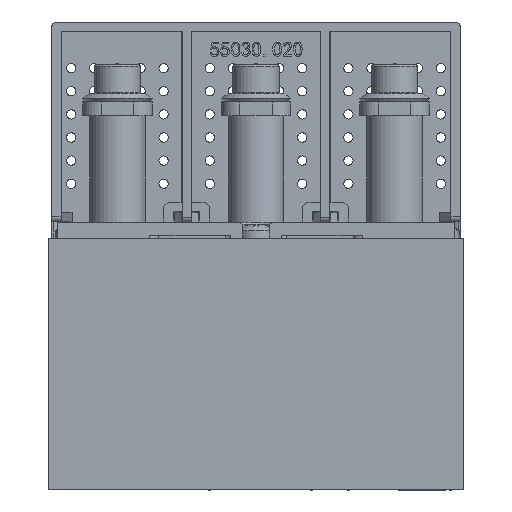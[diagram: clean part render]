
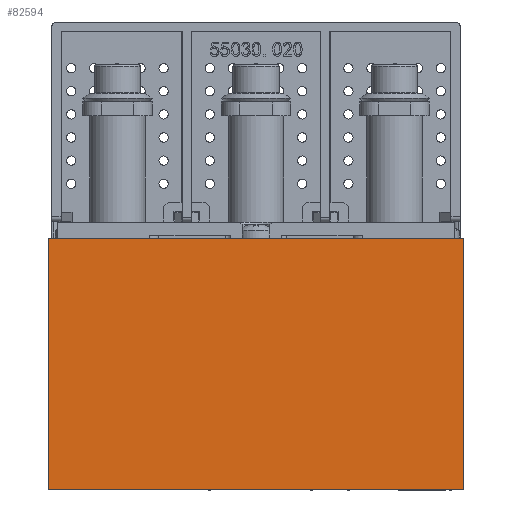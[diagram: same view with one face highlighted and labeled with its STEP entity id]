
A CAD part, left-side view. The second image highlights one B-rep face of the part: STEP entity #82594.
In plain terms, the highlighted planar face has unit normal (-1, 0, 0).
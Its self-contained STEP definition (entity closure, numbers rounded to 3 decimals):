
#277 = VERTEX_POINT ( 'NONE', #60913 ) ;
#1055 = ORIENTED_EDGE ( 'NONE', *, *, #59496, .T. ) ;
#5443 = VECTOR ( 'NONE', #9831, 1000. ) ;
#5937 = DIRECTION ( 'NONE',  ( -1., 0., 0. ) ) ;
#7279 = CARTESIAN_POINT ( 'NONE',  ( -124.11, 50.463, 220.35 ) ) ;
#9557 = VERTEX_POINT ( 'NONE', #44262 ) ;
#9831 = DIRECTION ( 'NONE',  ( 0., -1., 0. ) ) ;
#12185 = DIRECTION ( 'NONE',  ( 0., 0., 1. ) ) ;
#13276 = CARTESIAN_POINT ( 'NONE',  ( -124.11, -39.537, 165.85 ) ) ;
#18153 = ORIENTED_EDGE ( 'NONE', *, *, #89102, .F. ) ;
#23412 = VERTEX_POINT ( 'NONE', #7279 ) ;
#27874 = DIRECTION ( 'NONE',  ( 0., 0., -1. ) ) ;
#32150 = DIRECTION ( 'NONE',  ( 0., -1., 0. ) ) ;
#34816 = LINE ( 'NONE', #13276, #70553 ) ;
#34856 = LINE ( 'NONE', #82620, #72804 ) ;
#37390 = EDGE_CURVE ( 'NONE', #23412, #9557, #39081, .T. ) ;
#39081 = LINE ( 'NONE', #52718, #5443 ) ;
#44262 = CARTESIAN_POINT ( 'NONE',  ( -124.11, -39.537, 220.35 ) ) ;
#47608 = VECTOR ( 'NONE', #27874, 1000. ) ;
#47815 = PLANE ( 'NONE',  #52699 ) ;
#52699 = AXIS2_PLACEMENT_3D ( 'NONE', #55650, #5937, #12185 ) ;
#52718 = CARTESIAN_POINT ( 'NONE',  ( -124.11, 0., 220.35 ) ) ;
#55650 = CARTESIAN_POINT ( 'NONE',  ( -124.11, 50.463, 165.85 ) ) ;
#58761 = ORIENTED_EDGE ( 'NONE', *, *, #37390, .F. ) ;
#59496 = EDGE_CURVE ( 'NONE', #277, #70425, #34856, .T. ) ;
#59602 = FACE_OUTER_BOUND ( 'NONE', #77559, .T. ) ;
#60913 = CARTESIAN_POINT ( 'NONE',  ( -124.11, 50.463, 165.85 ) ) ;
#61443 = CARTESIAN_POINT ( 'NONE',  ( -124.11, -39.537, 165.85 ) ) ;
#63232 = LINE ( 'NONE', #77167, #47608 ) ;
#70425 = VERTEX_POINT ( 'NONE', #61443 ) ;
#70553 = VECTOR ( 'NONE', #77592, 1000. ) ;
#72804 = VECTOR ( 'NONE', #32150, 1000. ) ;
#77167 = CARTESIAN_POINT ( 'NONE',  ( -124.11, 50.463, 165.85 ) ) ;
#77559 = EDGE_LOOP ( 'NONE', ( #58761, #77836, #1055, #18153 ) ) ;
#77592 = DIRECTION ( 'NONE',  ( 0., 0., -1. ) ) ;
#77836 = ORIENTED_EDGE ( 'NONE', *, *, #85817, .T. ) ;
#82594 = ADVANCED_FACE ( 'NONE', ( #59602 ), #47815, .T. ) ;
#82620 = CARTESIAN_POINT ( 'NONE',  ( -124.11, 50.463, 165.85 ) ) ;
#85817 = EDGE_CURVE ( 'NONE', #23412, #277, #63232, .T. ) ;
#89102 = EDGE_CURVE ( 'NONE', #9557, #70425, #34816, .T. ) ;
